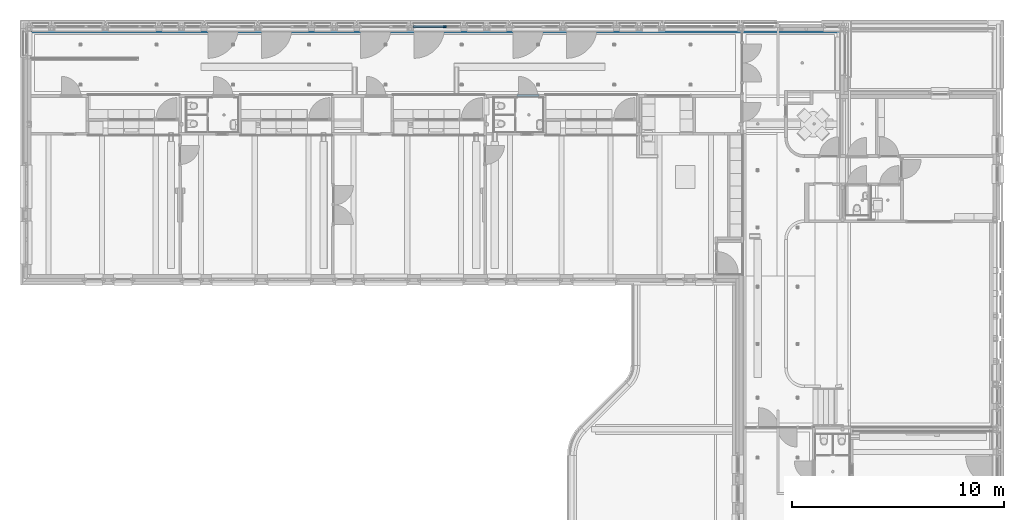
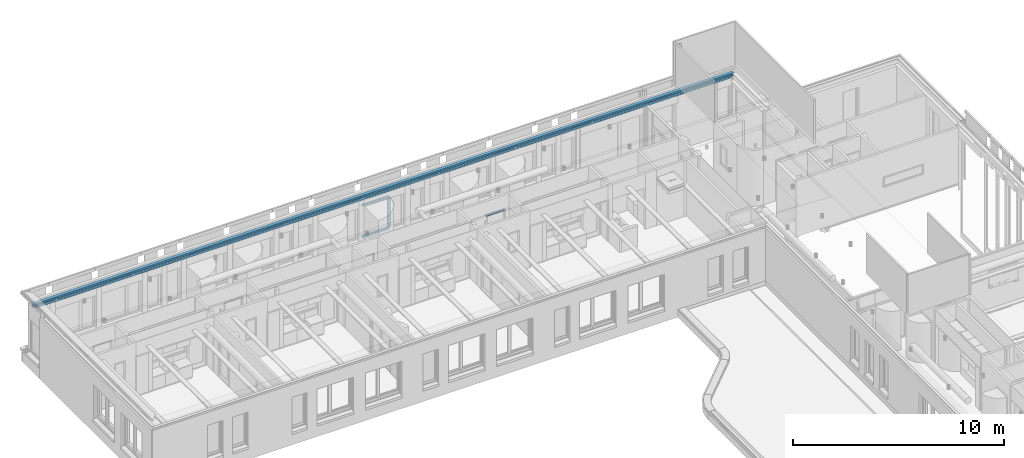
# One storey, part 19 of 128: 4 members, 1 beam, 2 elements without a shape of their own.
"""IFC2X3 building model written with IfcOpenShell, lengths in millimetres."""

from ifc_helpers import new_model, entity, si_unit, converted_unit, derived_unit, direction, frame, frame_2d, origin, origin_2d_with_axis, place, context, subcontext, project, spatial, polyline, circle_curve, parameter, trimmed, segment, composite_curve, rectangle, outline, extrude, source, transform, mapped, material, type_object, type_shapes, element, aggregate, save


model = new_model("IFC2X3")

# Units and contexts
model_context = context("Model", 3, precision=0.01, world=origin(), true_north=direction((6.123031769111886e-17, 1.0)))
body_context = subcontext(model_context, "Body", "Model", "MODEL_VIEW")
ifc_project = project(units=[si_unit("LENGTHUNIT", "METRE", prefix="MILLI"), si_unit("AREAUNIT", "SQUARE_METRE"), si_unit("VOLUMEUNIT", "CUBIC_METRE"), converted_unit("PLANEANGLEUNIT", "DEGREE", entity("IfcRatioMeasure", 0.017453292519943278), si_unit("PLANEANGLEUNIT", "RADIAN"), dimensions=[0, 0, 0, 0, 0, 0, 0]), si_unit("MASSUNIT", "GRAM", prefix="KILO"), derived_unit("MASSDENSITYUNIT", [(si_unit("MASSUNIT", "GRAM", prefix="KILO"), 1), (si_unit("LENGTHUNIT", "METRE"), -3)]), derived_unit("IONCONCENTRATIONUNIT", [(si_unit("MASSUNIT", "GRAM", prefix="KILO"), 1), (si_unit("LENGTHUNIT", "METRE"), -3)]), derived_unit("MOMENTOFINERTIAUNIT", [(si_unit("LENGTHUNIT", "METRE"), 4)]), si_unit("TIMEUNIT", "SECOND"), si_unit("FREQUENCYUNIT", "HERTZ"), si_unit("THERMODYNAMICTEMPERATUREUNIT", "DEGREE_CELSIUS"), derived_unit("THERMALTRANSMITTANCEUNIT", [(si_unit("MASSUNIT", "GRAM", prefix="KILO"), 1), (si_unit("THERMODYNAMICTEMPERATUREUNIT", "KELVIN"), -1), (si_unit("TIMEUNIT", "SECOND"), -3)]), derived_unit("THERMALCONDUCTANCEUNIT", [(si_unit("MASSUNIT", "GRAM", prefix="KILO"), 1), (si_unit("THERMODYNAMICTEMPERATUREUNIT", "KELVIN"), -1), (si_unit("TIMEUNIT", "SECOND"), -3), (si_unit("LENGTHUNIT", "METRE"), 1)]), derived_unit("VOLUMETRICFLOWRATEUNIT", [(si_unit("LENGTHUNIT", "METRE"), 3), (si_unit("TIMEUNIT", "SECOND"), -1)]), derived_unit("MASSFLOWRATEUNIT", [(si_unit("MASSUNIT", "GRAM", prefix="KILO"), 1), (si_unit("TIMEUNIT", "SECOND"), -1)]), derived_unit("ROTATIONALFREQUENCYUNIT", [(si_unit("TIMEUNIT", "SECOND"), -1)]), si_unit("ELECTRICCURRENTUNIT", "AMPERE"), si_unit("ELECTRICVOLTAGEUNIT", "VOLT"), si_unit("POWERUNIT", "WATT"), si_unit("FORCEUNIT", "NEWTON", prefix="KILO"), si_unit("ILLUMINANCEUNIT", "LUX"), si_unit("LUMINOUSFLUXUNIT", "LUMEN"), si_unit("LUMINOUSINTENSITYUNIT", "CANDELA"), derived_unit("USERDEFINED", [(si_unit("MASSUNIT", "GRAM", prefix="KILO"), -1), (si_unit("LENGTHUNIT", "METRE"), -2), (si_unit("TIMEUNIT", "SECOND"), 3), (si_unit("LUMINOUSFLUXUNIT", "LUMEN"), 1)]), derived_unit("USERDEFINED", [(si_unit("MASSUNIT", "GRAM", prefix="KILO"), 1), (si_unit("TIMEUNIT", "SECOND"), -3), (si_unit("LENGTHUNIT", "METRE"), 3), (si_unit("ELECTRICCURRENTUNIT", "AMPERE"), -2)]), derived_unit("SOUNDPOWERUNIT", [(si_unit("MASSUNIT", "GRAM", prefix="KILO"), 1), (si_unit("TIMEUNIT", "SECOND"), -3), (si_unit("LENGTHUNIT", "METRE"), 2)]), derived_unit("SOUNDPRESSUREUNIT", [(si_unit("MASSUNIT", "GRAM", prefix="KILO"), 1), (si_unit("LENGTHUNIT", "METRE"), -1), (si_unit("TIMEUNIT", "SECOND"), -2)]), derived_unit("LINEARVELOCITYUNIT", [(si_unit("LENGTHUNIT", "METRE"), 1), (si_unit("TIMEUNIT", "SECOND"), -1)]), si_unit("PRESSUREUNIT", "PASCAL"), derived_unit("USERDEFINED", [(si_unit("MASSUNIT", "GRAM", prefix="KILO"), 1), (si_unit("LENGTHUNIT", "METRE"), -2), (si_unit("TIMEUNIT", "SECOND"), -2)]), derived_unit("LINEARFORCEUNIT", [(si_unit("MASSUNIT", "GRAM", prefix="KILO"), 1), (si_unit("TIMEUNIT", "SECOND"), -2)]), derived_unit("PLANARFORCEUNIT", [(si_unit("MASSUNIT", "GRAM", prefix="KILO"), 1), (si_unit("LENGTHUNIT", "METRE"), -1), (si_unit("TIMEUNIT", "SECOND"), -2)]), derived_unit("SPECIFICHEATCAPACITYUNIT", [(si_unit("THERMODYNAMICTEMPERATUREUNIT", "KELVIN"), -1), (si_unit("LENGTHUNIT", "METRE"), 2), (si_unit("TIMEUNIT", "SECOND"), -2)]), derived_unit("HEATINGVALUEUNIT", [(si_unit("LENGTHUNIT", "METRE"), 2), (si_unit("TIMEUNIT", "SECOND"), -2)]), derived_unit("VAPORPERMEABILITYUNIT", [(si_unit("LENGTHUNIT", "METRE"), -1), (si_unit("TIMEUNIT", "SECOND"), 1)]), derived_unit("DYNAMICVISCOSITYUNIT", [(si_unit("MASSUNIT", "GRAM", prefix="KILO"), 1), (si_unit("TIMEUNIT", "SECOND"), -1), (si_unit("LENGTHUNIT", "METRE"), -1)]), derived_unit("THERMALEXPANSIONCOEFFICIENTUNIT", [(si_unit("THERMODYNAMICTEMPERATUREUNIT", "KELVIN"), -1)]), derived_unit("MODULUSOFELASTICITYUNIT", [(si_unit("MASSUNIT", "GRAM", prefix="KILO"), 1), (si_unit("LENGTHUNIT", "METRE"), -1), (si_unit("TIMEUNIT", "SECOND"), -2)]), derived_unit("ISOTHERMALMOISTURECAPACITYUNIT", [(si_unit("LENGTHUNIT", "METRE"), 3), (si_unit("MASSUNIT", "GRAM", prefix="KILO"), -1)]), derived_unit("MOISTUREDIFFUSIVITYUNIT", [(si_unit("TIMEUNIT", "SECOND"), -1), (si_unit("LENGTHUNIT", "METRE"), 2)])], contexts=[model_context])

# Site, building, storey
site_placement = place(None, frame((0.0, 300.0, 0.0)))
site = spatial("IfcSite", under=ifc_project, at=site_placement, Name="<Kadastrale nummers>", CompositionType="ELEMENT")
building_placement = place(site_placement, origin())
building = spatial("IfcBuilding", under=site, at=building_placement, CompositionType="ELEMENT")
storey_placement = place(building_placement, frame((0.0, 0.0, 3560.0000331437)))
storey = spatial("IfcBuildingStorey", under=building, at=storey_placement, Name="01 eerste verdieping", CompositionType="ELEMENT", Elevation=3560.0000331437)

# Beam
ifc_material_1 = material(Name="h2_staal S235")
beam_type = type_object("IfcBeamType", Name="NLRS_28_SF_LIB_balk sfb_gen_ISR:balk gen hea180 400x15", PredefinedType="T_BEAM", material=ifc_material_1)
shared_shape_1 = source(origin(), body_context, "Body", "SweptSolid", [
    extrude(outline(composite_curve([segment(polyline([(76.0, -90.0), (85.49999999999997, -90.0)]), True, "CONTINUOUS"), segment(polyline([(85.49999999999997, -90.0), (85.49999999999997, 90.0)]), True, "CONTINUOUS"), segment(polyline([(85.49999999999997, 90.0), (76.0, 90.0)]), True, "CONTINUOUS"), segment(polyline([(76.0, 90.0), (76.0, 18.0)]), True, "CONTINUOUS"), segment(trimmed(circle_curve(frame_2d((61.0, 18.0), x_axis=(1.0, 0.0)), 15.000000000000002), [parameter(269.99999999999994)], [parameter(0.0)], True, "PARAMETER"), False, "CONTINUOUS"), segment(polyline([(61.0, 3.0), (-61.0, 3.0)]), True, "CONTINUOUS"), segment(trimmed(circle_curve(frame_2d((-61.0, 18.0), x_axis=(0.0, -1.0)), 15.000000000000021), [parameter(269.9999999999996)], [parameter(0.0)], True, "PARAMETER"), False, "CONTINUOUS"), segment(polyline([(-76.0, 18.0), (-76.0, 90.0)]), True, "CONTINUOUS"), segment(polyline([(-76.0, 90.0), (-85.49999999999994, 90.0)]), True, "CONTINUOUS"), segment(polyline([(-85.49999999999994, 90.0), (-85.49999999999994, -90.0)]), True, "CONTINUOUS"), segment(polyline([(-85.49999999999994, -90.0), (-76.0, -90.0)]), True, "CONTINUOUS"), segment(polyline([(-76.0, -90.0), (-76.0, -18.0)]), True, "CONTINUOUS"), segment(trimmed(circle_curve(frame_2d((-61.0, -18.0), x_axis=(-1.0, 0.0)), 15.000000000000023), [parameter(269.99999999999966)], [parameter(0.0)], True, "PARAMETER"), False, "CONTINUOUS"), segment(polyline([(-61.0, -3.0), (61.0, -3.0)]), True, "CONTINUOUS"), segment(trimmed(circle_curve(frame_2d((61.0, -18.0), x_axis=(0.0, 1.0)), 15.000000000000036), [parameter(270.00000000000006)], [parameter(0.0)], True, "PARAMETER"), False, "CONTINUOUS"), segment(polyline([(76.0, -18.0), (76.0, -90.0)]), True, "CONTINUOUS")], self_intersect=False)), frame((-19215.0, 0.0, 36.49999999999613), z_axis=(1.0, 0.0, 0.0), x_axis=(0.0, 0.0, -1.0)), (0.0, 0.0, 1.0), 38429.99999999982),
    extrude(rectangle(XDim=15.00000000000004, YDim=280.0000000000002, at=origin_2d_with_axis()), frame((-19095.0, -50.0, -56.50000000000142), z_axis=(1.0, 0.0, 0.0), x_axis=(0.0, 0.0, -1.0)), (0.0, 0.0, 1.0), 38189.99999999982),
])
type_shapes(beam_type, [shared_shape_1])
beam_placement = place(storey_placement, frame((22200.0, 49800.0, 3379.0)))
element("IfcBeam", 1, at=beam_placement, inside=storey, type_object=beam_type, material=ifc_material_1, Name="NLRS_28_SF_LIB_balk sfb_gen_ISR:balk gen hea180 400x15", ObjectType="NLRS_28_SF_LIB_balk sfb_gen_ISR:balk gen hea180 400x15", context=body_context, shape_type="MappedRepresentation", body=[
    mapped(shared_shape_1, transform((0.0, 0.0, 0.0), scale=1.0)),
])

# Curtain wall, member
curtain_wall_type_1 = type_object("IfcCurtainWallType", Name="Curtain Wall:Merk H01", PredefinedType="NOTDEFINED")
curtain_wall_1_placement = place(storey_placement, frame((0.0, 0.0, -3560.0000331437)))
curtain_wall_1 = element("IfcCurtainWall", 2, at=curtain_wall_1_placement, inside=storey, type_object=curtain_wall_type_1, Name="Curtain Wall:Merk H01", ObjectType="Curtain Wall:Merk H01")
ifc_material_2 = material(Name="ISR_HPL")
member_type_1 = type_object("IfcMemberType", Name="Rectangular Mullion:31_CWM_067x114", PredefinedType="MULLION", material=ifc_material_2)
shared_shape_2 = source(origin(), body_context, "Body", "SweptSolid", [
    extrude(rectangle(XDim=113.99999999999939, YDim=67.0, at=origin_2d_with_axis()), frame((-33.5, 57.0, -1034.0), z_axis=(0.0, 0.0, 1.0), x_axis=(0.0, -1.0, 0.0)), (0.0, 0.0, 1.0), 1033.9999999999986),
])
type_shapes(member_type_1, [shared_shape_2])
member_1_placement = place(curtain_wall_1_placement, frame((26041.001376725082, 46606.0, 6040.0000331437), z_axis=(-1.0, 0.0, 0.0), x_axis=(0.0, 0.0, 1.0)))
member_1 = element("IfcMember", 3, at=member_1_placement, type_object=member_type_1, material=ifc_material_2, Name="Rectangular Mullion:31_CWM_067x114", ObjectType="Rectangular Mullion:31_CWM_067x114", context=body_context, shape_type="MappedRepresentation", body=[
    mapped(shared_shape_2, transform((0.0, 0.0, 0.0), scale=1.0)),
])
aggregate(curtain_wall_1, [member_1])

# Curtain wall, members
curtain_wall_type_2 = type_object("IfcCurtainWallType", Name="Curtain Wall:K_22", PredefinedType="NOTDEFINED")
curtain_wall_2_placement = place(storey_placement, frame((0.0, 0.0, -3560.0000331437)))
curtain_wall_2 = element("IfcCurtainWall", 4, at=curtain_wall_2_placement, inside=storey, type_object=curtain_wall_type_2, Name="Curtain Wall:K_22", ObjectType="Curtain Wall:K_22")
ifc_material_3 = material(Name="ISR_Kunststof_RAL7006")
member_type_2 = type_object("IfcMemberType", Name="Rectangular Mullion:100x83 Gealan Kubus", PredefinedType="MULLION", material=ifc_material_3)
shared_shape_3 = source(origin(), body_context, "Body", "SweptSolid", [
    extrude(rectangle(XDim=83.0, YDim=100.0, at=origin_2d_with_axis()), frame((-50.0, 41.5, -1483.0), z_axis=(0.0, 0.0, 1.0), x_axis=(0.0, -1.0, 0.0)), (0.0, 0.0, 1.0), 1483.0000000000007),
])
type_shapes(member_type_2, [shared_shape_3])
member_2_placement = place(curtain_wall_2_placement, frame((21140.0, 49868.0, 6390.0), z_axis=(-1.0, 0.0, 0.0), x_axis=(0.0, 0.0, 1.0)))
member_2 = element("IfcMember", 5, at=member_2_placement, type_object=member_type_2, material=ifc_material_3, Name="Rectangular Mullion:100x83 Gealan Kubus", ObjectType="Rectangular Mullion:100x83 Gealan Kubus", context=body_context, shape_type="MappedRepresentation", body=[
    mapped(shared_shape_3, transform((0.0, 0.0, 0.0), scale=1.0)),
])
member_type_3 = type_object("IfcMemberType", Name="Rectangular Mullion:120x83 Gealan Kubus", PredefinedType="MULLION", material=ifc_material_3)
shared_shape_4 = source(origin(), body_context, "Body", "SweptSolid", [
    extrude(rectangle(XDim=83.00000000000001, YDim=120.0, at=origin_2d_with_axis()), frame((-60.0, 41.50000000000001, -1483.0), z_axis=(0.0, 0.0, 1.0), x_axis=(0.0, -1.0, 0.0)), (0.0, 0.0, 1.0), 1483.0000000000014),
])
type_shapes(member_type_3, [shared_shape_4])
member_3_placement = place(curtain_wall_2_placement, frame((22623.0, 49868.0, 4460.000035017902), z_axis=(1.0, 0.0, 0.0), x_axis=(0.0, 0.0, -1.0)))
member_3 = element("IfcMember", 6, at=member_3_placement, type_object=member_type_3, material=ifc_material_3, Name="Rectangular Mullion:120x83 Gealan Kubus", ObjectType="Rectangular Mullion:120x83 Gealan Kubus", context=body_context, shape_type="MappedRepresentation", body=[
    mapped(shared_shape_4, transform((0.0, 0.0, 0.0), scale=1.0)),
])
member_type_4 = type_object("IfcMemberType", Name="Rectangular Mullion:154x83 Gealan Kubus", PredefinedType="MULLION", material=ifc_material_3)
shared_shape_5 = source(origin(), body_context, "Body", "SweptSolid", [
    extrude(rectangle(XDim=83.00000000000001, YDim=154.0, at=origin_2d_with_axis()), frame((0.0, 41.50000000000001, -1710.0), z_axis=(0.0, 0.0, 1.0), x_axis=(0.0, -1.0, 0.0)), (0.0, 0.0, 1.0), 1710.0000000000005),
])
type_shapes(member_type_4, [shared_shape_5])
member_4_placement = place(curtain_wall_2_placement, frame((22623.0, 49868.0, 4580.0000331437), z_axis=(0.0, 0.0, -1.0), x_axis=(-1.0, 0.0, 0.0)))
member_4 = element("IfcMember", 7, at=member_4_placement, type_object=member_type_4, material=ifc_material_3, Name="Rectangular Mullion:154x83 Gealan Kubus", ObjectType="Rectangular Mullion:154x83 Gealan Kubus", context=body_context, shape_type="MappedRepresentation", body=[
    mapped(shared_shape_5, transform((0.0, 0.0, 0.0), scale=1.0)),
])
aggregate(curtain_wall_2, [member_2, member_3, member_4])

save(model, "model.ifc")
